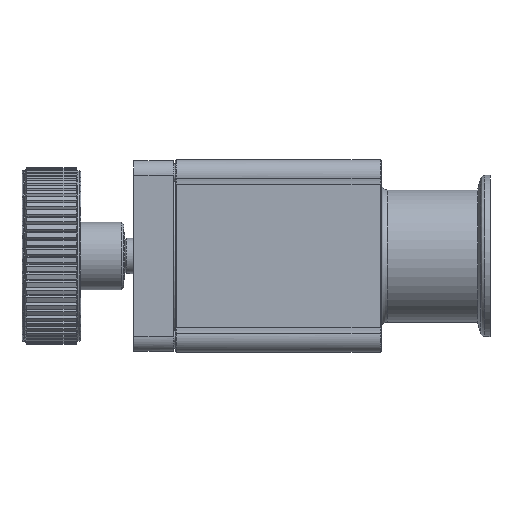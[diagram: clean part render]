
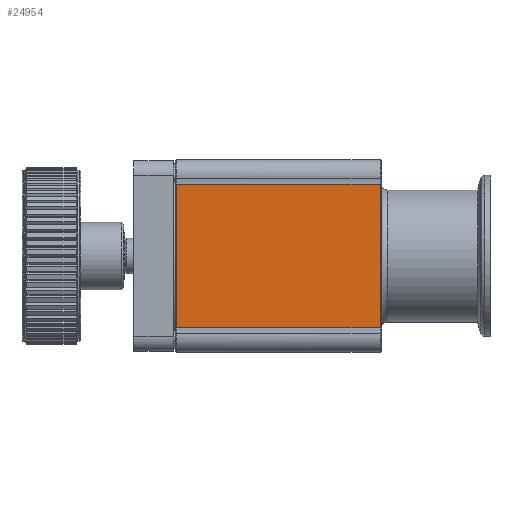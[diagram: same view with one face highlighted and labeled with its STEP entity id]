
A CAD part, left-side view. The second image highlights one B-rep face of the part: STEP entity #24954.
In plain terms, the highlighted free-form (B-spline) face has degree [1, 1] with [2, 2] control points.
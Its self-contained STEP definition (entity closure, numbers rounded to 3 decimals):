
#24348=CARTESIAN_POINT('V89',(-32.5,
   103.8,-24.485));
#24349=VERTEX_POINT('V89',#24348);
#24392=CARTESIAN_POINT('V88',(-32.5,
   103.8,24.485));
#24393=VERTEX_POINT('V88',#24392);
#24399=CARTESIAN_POINT('E120',(-32.5,
   103.8,24.485));
#24400=CARTESIAN_POINT('E120',(-32.5,
   103.8,-24.485));
#24401=B_SPLINE_CURVE_WITH_KNOTS('E120',1,(#24399,#24400),
   .POLYLINE_FORM.,.F.,.U.,(2,2),(2.0,88.568),
   .UNSPECIFIED.);
#24402=EDGE_CURVE('E120',#24393,#24349,#24401,.T.);
#24908=CARTESIAN_POINT('V87',(-32.5,34.4,
   24.485));
#24909=VERTEX_POINT('V87',#24908);
#24923=CARTESIAN_POINT('E119',(-32.5,
   34.4,24.485));
#24924=CARTESIAN_POINT('E119',(-32.5,
   103.8,24.485));
#24925=B_SPLINE_CURVE_WITH_KNOTS('E119',1,(#24923,#24924),
   .POLYLINE_FORM.,.F.,.U.,(2,2),(2.202,
   37.19),.UNSPECIFIED.);
#24926=EDGE_CURVE('E119',#24909,#24393,#24925,.T.);
#24933=CARTESIAN_POINT('F40',(-32.5,33.0,
   -25.742));
#24934=CARTESIAN_POINT('F40',(-32.5,33.0,
   25.742));
#24935=CARTESIAN_POINT('F40',(-32.5,
   107.7,-25.742));
#24936=CARTESIAN_POINT('F40',(-32.5,
   107.7,25.742));
#24937=B_SPLINE_SURFACE_WITH_KNOTS('F40',1,1,((#24933,#24935),(
   #24934,#24936)),.PLANE_SURF.,.F.,.F.,.U.,(2,2),(2,2),(0.0,1.0),
   (0.699,2.15),.UNSPECIFIED.);
#24938=CARTESIAN_POINT('V86',(-32.5,34.4,
   -24.485));
#24939=VERTEX_POINT('V86',#24938);
#24940=CARTESIAN_POINT('E118',(-32.5,
   34.4,-24.485));
#24941=CARTESIAN_POINT('E118',(-32.5,
   34.4,24.485));
#24942=B_SPLINE_CURVE_WITH_KNOTS('E118',1,(#24940,#24941),
   .POLYLINE_FORM.,.F.,.U.,(2,2),(2.0,88.568),
   .UNSPECIFIED.);
#24943=EDGE_CURVE('E118',#24939,#24909,#24942,.T.);
#24944=ORIENTED_EDGE('E118',*,*,#24943,.F.);
#24945=CARTESIAN_POINT('E121',(-32.5,
   103.8,-24.485));
#24946=CARTESIAN_POINT('E121',(-32.5,
   34.4,-24.485));
#24947=B_SPLINE_CURVE_WITH_KNOTS('E121',1,(#24945,#24946),
   .POLYLINE_FORM.,.F.,.U.,(2,2),(2.202,
   37.19),.UNSPECIFIED.);
#24948=EDGE_CURVE('E121',#24349,#24939,#24947,.T.);
#24949=ORIENTED_EDGE('E121',*,*,#24948,.F.);
#24950=ORIENTED_EDGE('E120',*,*,#24402,.F.);
#24951=ORIENTED_EDGE('E119',*,*,#24926,.F.);
#24952=EDGE_LOOP('F40',(#24944,#24949,#24950,#24951));
#24953=FACE_OUTER_BOUND('F40',#24952,.F.);
#24954=ADVANCED_FACE('F40',(#24953),#24937,.T.);
